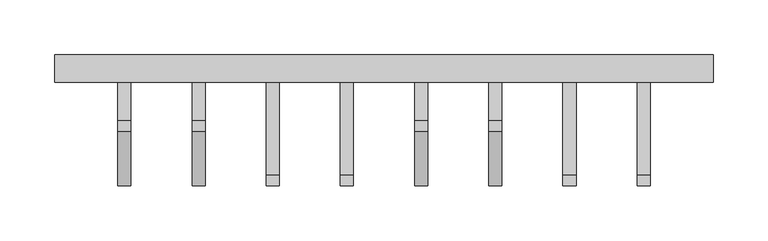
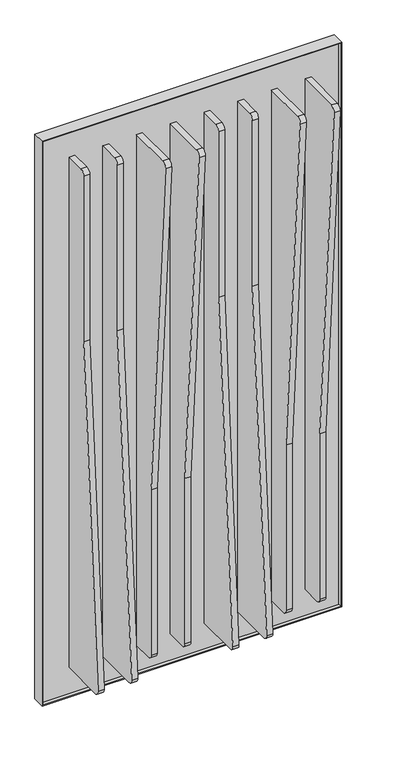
"""IFC4 building model written with IfcOpenShell, lengths in millimetres: proxy geometry, Frames_Plungle 6.3dm."""

from ifc_helpers import new_model, si_unit, point, frame, frame_2d, origin, place, context, project, spatial, polyline, circle_curve, trimmed, segment, composite_curve, outline, extrude, source, transform, mapped, element, save


def generic_models_848bd60c(model_context):
    return source(origin(), model_context, "Body", "SweptSolid", [
        extrude(outline(composite_curve([segment(trimmed(circle_curve(frame_2d((109.527821, 439.6019398)), 10.0), [point((109.527821, 429.6019398))], [point((99.527821, 439.6019398))], False, "CARTESIAN"), True, "CONTINUOUS"), segment(polyline([(99.527821, 439.6019398), (99.527821, 792.268739), (49.47712, 1506.9036814)]), True, "CONTINUOUS"), segment(trimmed(circle_curve(frame_2d((59.4526841, 1507.6023374)), 10.0), [point((49.47712, 1506.9036814))], [point((59.4526841, 1517.6023374))], False, "CARTESIAN"), True, "CONTINUOUS"), segment(polyline([(59.4526841, 1517.6023374), (151.027821, 1517.6023374), (151.027821, 429.6019398), (109.527821, 429.6019398)]), True, "CONTINUOUS")], self_intersect=False)), frame((2863.514425, 0.0, 0.0), z_axis=(1.0, 0.0, 0.0), x_axis=(0.0, 1.0, 0.0)), (0.0, 0.0, 1.0), 12.0),
        extrude(outline(composite_curve([segment(trimmed(circle_curve(frame_2d((109.527821, 439.6019398)), 10.0), [point((109.527821, 429.6019398))], [point((99.527821, 439.6019398))], False, "CARTESIAN"), True, "CONTINUOUS"), segment(polyline([(99.527821, 439.6019398), (99.527821, 792.268739), (49.47712, 1506.9036814)]), True, "CONTINUOUS"), segment(trimmed(circle_curve(frame_2d((59.4526841, 1507.6023374)), 10.0), [point((49.47712, 1506.9036814))], [point((59.4526841, 1517.6023374))], False, "CARTESIAN"), True, "CONTINUOUS"), segment(polyline([(59.4526841, 1517.6023374), (151.027821, 1517.6023374), (151.027821, 429.6019398), (109.527821, 429.6019398)]), True, "CONTINUOUS")], self_intersect=False)), frame((2523.514425, 0.0, 0.0), z_axis=(1.0, 0.0, 0.0), x_axis=(0.0, 1.0, 0.0)), (0.0, 0.0, 1.0), 12.0),
        extrude(outline(composite_curve([segment(trimmed(circle_curve(frame_2d((109.527821, 439.6019398)), 10.0), [point((109.527821, 429.6019398))], [point((99.527821, 439.6019398))], False, "CARTESIAN"), True, "CONTINUOUS"), segment(polyline([(99.527821, 439.6019398), (99.527821, 792.268739), (49.47712, 1506.9036814)]), True, "CONTINUOUS"), segment(trimmed(circle_curve(frame_2d((59.4526841, 1507.6023374)), 10.0), [point((49.47712, 1506.9036814))], [point((59.4526841, 1517.6023374))], False, "CARTESIAN"), True, "CONTINUOUS"), segment(polyline([(59.4526841, 1517.6023374), (151.027821, 1517.6023374), (151.027821, 429.6019398), (109.527821, 429.6019398)]), True, "CONTINUOUS")], self_intersect=False)), frame((2591.514425, 0.0, 0.0), z_axis=(1.0, 0.0, 0.0), x_axis=(0.0, 1.0, 0.0)), (0.0, 0.0, 1.0), 12.0),
        extrude(outline(composite_curve([segment(polyline([(49.47712, 440.301046), (99.527821, 1154.9359884), (99.527821, 1507.6027876)]), True, "CONTINUOUS"), segment(trimmed(circle_curve(frame_2d((109.527821, 1507.6027876)), 10.0), [point((99.527821, 1507.6027876))], [point((109.527821, 1517.6027876))], False, "CARTESIAN"), True, "CONTINUOUS"), segment(polyline([(109.527821, 1517.6027876), (151.027821, 1517.6027876), (151.027821, 429.60239), (59.4526841, 429.60239)]), True, "CONTINUOUS"), segment(trimmed(circle_curve(frame_2d((59.4526841, 439.60239)), 10.0), [point((59.4526841, 429.60239))], [point((49.47712, 440.301046))], False, "CARTESIAN"), True, "CONTINUOUS")], self_intersect=False)), frame((2455.5146691, 0.0, 0.0), z_axis=(1.0, 0.0, 0.0), x_axis=(0.0, 1.0, 0.0)), (0.0, 0.0, 1.0), 12.0),
        extrude(outline(composite_curve([segment(polyline([(49.47712, 440.301046), (99.527821, 1154.9359884), (99.527821, 1507.6027876)]), True, "CONTINUOUS"), segment(trimmed(circle_curve(frame_2d((109.527821, 1507.6027876)), 10.0), [point((99.527821, 1507.6027876))], [point((109.527821, 1517.6027876))], False, "CARTESIAN"), True, "CONTINUOUS"), segment(polyline([(109.527821, 1517.6027876), (151.027821, 1517.6027876), (151.027821, 429.60239), (59.4526841, 429.60239)]), True, "CONTINUOUS"), segment(trimmed(circle_curve(frame_2d((59.4526841, 439.60239)), 10.0), [point((59.4526841, 429.60239))], [point((49.47712, 440.301046))], False, "CARTESIAN"), True, "CONTINUOUS")], self_intersect=False)), frame((2659.5146691, 0.0, 0.0), z_axis=(1.0, 0.0, 0.0), x_axis=(0.0, 1.0, 0.0)), (0.0, 0.0, 1.0), 12.0),
        extrude(outline(composite_curve([segment(polyline([(49.47712, 440.301046), (99.527821, 1154.9359884), (99.527821, 1507.6027876)]), True, "CONTINUOUS"), segment(trimmed(circle_curve(frame_2d((109.527821, 1507.6027876)), 10.0), [point((99.527821, 1507.6027876))], [point((109.527821, 1517.6027876))], False, "CARTESIAN"), True, "CONTINUOUS"), segment(polyline([(109.527821, 1517.6027876), (151.027821, 1517.6027876), (151.027821, 429.60239), (59.4526841, 429.60239)]), True, "CONTINUOUS"), segment(trimmed(circle_curve(frame_2d((59.4526841, 439.60239)), 10.0), [point((59.4526841, 429.60239))], [point((49.47712, 440.301046))], False, "CARTESIAN"), True, "CONTINUOUS")], self_intersect=False)), frame((2387.5146691, 0.0, 0.0), z_axis=(1.0, 0.0, 0.0), x_axis=(0.0, 1.0, 0.0)), (0.0, 0.0, 1.0), 12.0),
        extrude(outline(composite_curve([segment(polyline([(49.47712, 440.301046), (99.527821, 1154.9359884), (99.527821, 1507.6027876)]), True, "CONTINUOUS"), segment(trimmed(circle_curve(frame_2d((109.527821, 1507.6027876)), 10.0), [point((99.527821, 1507.6027876))], [point((109.527821, 1517.6027876))], False, "CARTESIAN"), True, "CONTINUOUS"), segment(polyline([(109.527821, 1517.6027876), (151.027821, 1517.6027876), (151.027821, 429.60239), (59.4526841, 429.60239)]), True, "CONTINUOUS"), segment(trimmed(circle_curve(frame_2d((59.4526841, 439.60239)), 10.0), [point((59.4526841, 429.60239))], [point((49.47712, 440.301046))], False, "CARTESIAN"), True, "CONTINUOUS")], self_intersect=False)), frame((2727.5146691, 0.0, 0.0), z_axis=(1.0, 0.0, 0.0), x_axis=(0.0, 1.0, 0.0)), (0.0, 0.0, 1.0), 12.0),
        extrude(outline(composite_curve([segment(trimmed(circle_curve(frame_2d((109.527821, 439.6019398)), 10.0), [point((109.527821, 429.6019398))], [point((99.527821, 439.6019398))], False, "CARTESIAN"), True, "CONTINUOUS"), segment(polyline([(99.527821, 439.6019398), (99.527821, 792.268739), (49.47712, 1506.9036814)]), True, "CONTINUOUS"), segment(trimmed(circle_curve(frame_2d((59.4526841, 1507.6023374)), 10.0), [point((49.47712, 1506.9036814))], [point((59.4526841, 1517.6023374))], False, "CARTESIAN"), True, "CONTINUOUS"), segment(polyline([(59.4526841, 1517.6023374), (151.027821, 1517.6023374), (151.027821, 429.6019398), (109.527821, 429.6019398)]), True, "CONTINUOUS")], self_intersect=False)), frame((2795.514425, 0.0, 0.0), z_axis=(1.0, 0.0, 0.0), x_axis=(0.0, 1.0, 0.0)), (0.0, 0.0, 1.0), 12.0),
        extrude(outline(polyline([(371.6025888, 2329.5142982), (371.6025888, 2933.5142982), (1575.6025888, 2933.5142982), (1575.6025888, 2329.5142982), (371.6025888, 2329.5142982)]), holes=[polyline([(373.6025888, 2331.5142982), (1573.6025888, 2331.5142982), (1573.6025888, 2931.5142982), (373.6025888, 2931.5142982), (373.6025888, 2331.5142982)])]), frame((0.0, 144.327821, 0.0), z_axis=(0.0, 1.0, 0.0), x_axis=(0.0, 0.0, 1.0)), (0.0, 0.0, 1.0), 25.4),
        extrude(outline(polyline([(2931.5142982, 151.027821), (2331.5142982, 151.027821), (2331.5142982, 163.027821), (2931.5142982, 163.027821), (2931.5142982, 151.027821)])), frame((0.0, 0.0, 373.6025888), z_axis=(0.0, 0.0, 1.0), x_axis=(1.0, 0.0, 0.0)), (0.0, 0.0, 1.0), 1200.0),
    ])


if __name__ == "__main__":
    model = new_model("IFC4")
    model_context = context("Model", 3, world=origin())
    ifc_project = project(units=[si_unit("LENGTHUNIT", "METRE", prefix="MILLI")], contexts=[model_context])
    site = spatial("IfcSite", under=ifc_project)
    building = spatial("IfcBuilding", under=site)
    placement = place(None, origin())
    generic_models_shape = generic_models_848bd60c(model_context)
    element("IfcBuildingElementProxy", 1, Name="Frames_Plungle 6.3dm", ObjectType="Frames_Plungle 6.3dm", at=placement, inside=building, context=model_context, shape_type="MappedRepresentation", body=[
        mapped(generic_models_shape, transform((0.0, 0.0, 0.0), x_axis=(1.0, 0.0, 0.0), y_axis=(0.0, 1.0, 0.0), z_axis=(0.0, 0.0, 1.0))),
    ])
    save(model, "model.ifc")
